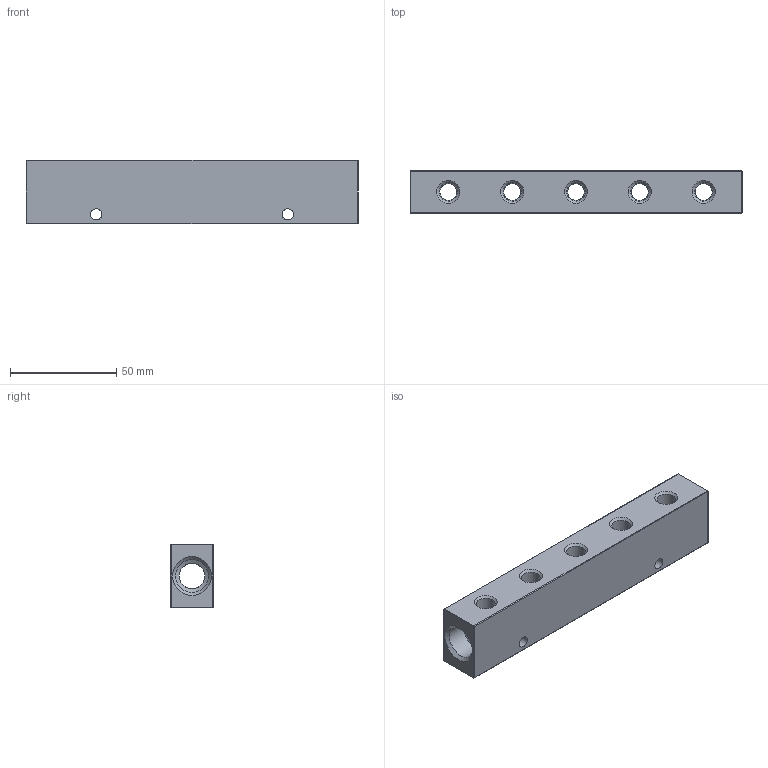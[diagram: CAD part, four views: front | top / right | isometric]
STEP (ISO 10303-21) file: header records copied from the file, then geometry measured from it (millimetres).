
FILE_DESCRIPTION(/* description */ (''),/* implementation_level */ '2;1');
FILE_NAME(/* name */ 'S:\_Tecnico\ArchivioUT\_Disegni3D ingombri\DISEGNI 3D per ingombri\RL\RL52381855.stp',/* time_stamp */ '2020-02-20T14:34:54+01:00',/* author */ ('UfficioTecnico'),/* organization */ (''),/* preprocessor_version */ 'ST-DEVELOPER v18',/* originating_system */ 'Autodesk Inventor 2020',/* authorisation */ '');
FILE_SCHEMA (('AUTOMOTIVE_DESIGN { 1 0 10303 214 3 1 1 }'));
Length unit declared in the file: millimetre
Products named in the file (1): RL51381805
Bounding box: 156 x 20 x 30 mm (x, y, z)
Volume: 67544.7 mm3; surface area: 24446.8 mm2
Topology: 1 solids, 1 shells, 75 faces, 193 edges, 120 vertices
Faces by surface type: cylinder 37, cone 24, sphere 8, plane 6
Full cylindrical faces by diameter (mm): 5.25 x2, 8 x10, 8.848 x10, 12 x1, 15.395 x2
Entity records: 2692 total; most frequent: CARTESIAN_POINT 729, DIRECTION 425, ORIENTED_EDGE 386, EDGE_CURVE 193, AXIS2_PLACEMENT_3D 176, VERTEX_POINT 120, EDGE_LOOP 101, CIRCLE 100
